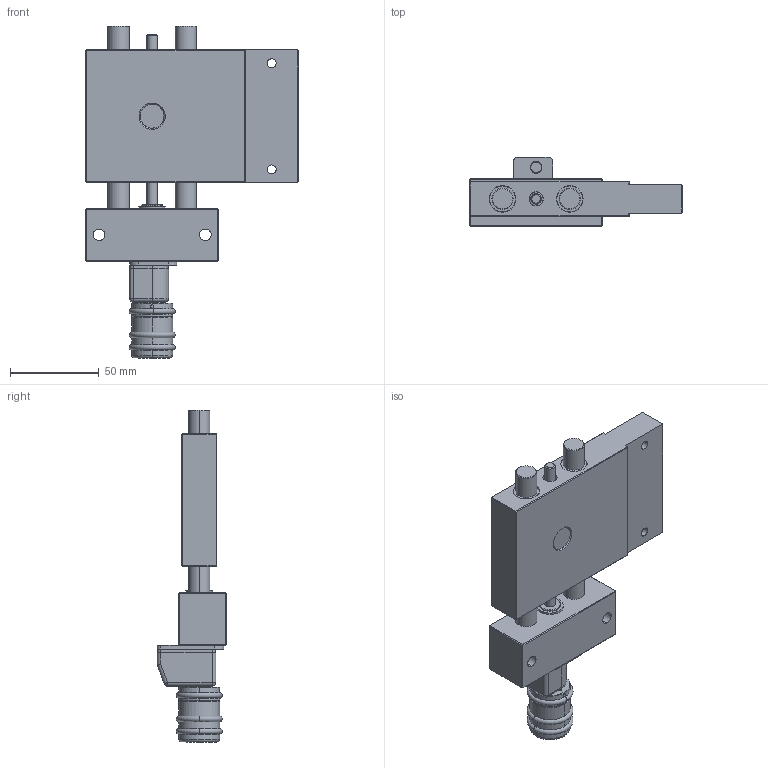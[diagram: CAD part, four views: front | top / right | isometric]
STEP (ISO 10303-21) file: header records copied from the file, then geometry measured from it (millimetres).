
FILE_DESCRIPTION (( 'STEP AP203' ), '1' );
FILE_NAME ('KT2512-KL-PA-Kreuztisch.STEP', '2016-01-15T16:54:57', ( '' ), ( '' ), 'SwSTEP 2.0', 'SolidWorks 2014', '' );
FILE_SCHEMA (( 'CONFIG_CONTROL_DESIGN' ));
Length unit declared in the file: millimetre
Products named in the file (4): KT12-000-02-K-Schlitten-komplett; KT2512-KL-PA-Kreuztisch; PT2512-000-01-Festteil-PA(E); PA0812-PTHT-000-Positionsanzeiger-komplett_n_Standard
Assembly tree (3 placements, depth 2):
  KT2512-KL-PA-Kreuztisch
    PT2512-000-01-Festteil-PA(E)
    PA0812-PTHT-000-Positionsanzeiger-komplett_n_Standard
    KT12-000-02-K-Schlitten-komplett
Bounding box: 120 x 39.2 x 187.53 mm (x, y, z)
Volume: 258508.7 mm3; surface area: 67012.8 mm2
Topology: 5 solids, 5 shells, 433 faces, 1002 edges, 620 vertices
Faces by surface type: plane 179, cylinder 153, cone 73, torus 15, sphere 7, bspline 6
Entity records: 13451 total; most frequent: CARTESIAN_POINT 2934, DIRECTION 2238, ORIENTED_EDGE 1990, EDGE_CURVE 995, AXIS2_PLACEMENT_3D 854, VERTEX_POINT 620, LINE 530, VECTOR 530
